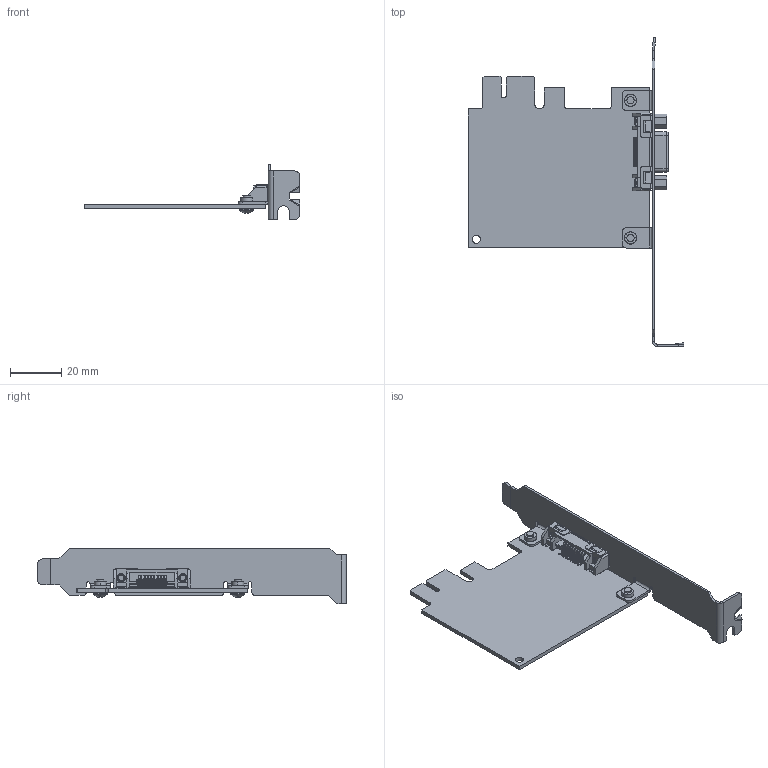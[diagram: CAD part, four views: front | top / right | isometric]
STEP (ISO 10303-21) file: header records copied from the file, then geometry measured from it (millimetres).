
FILE_DESCRIPTION((''),'2;1');
FILE_NAME('CU_CCA_PCIE-8361-FH-SW','2014-02-26T',('gvillanu'),(''),'PRO/ENGINEER BY PARAMETRIC TECHNOLOGY CORPORATION, 2011490','PRO/ENGINEER BY PARAMETRIC TECHNOLOGY CORPORATION, 2011490','');
FILE_SCHEMA(('CONFIG_CONTROL_DESIGN'));
Length unit declared in the file: inch
Products named in the file (1): CU_CCA_PCIE-8361-FH-SW
Bounding box: 84.53 x 120.94 x 21.59 mm (x, y, z)
Surface area: 15882.5 mm2 (no closed solid volume)
Topology: 0 solids, 48 shells, 1098 faces, 3981 edges, 2783 vertices
Faces by surface type: plane 663, cylinder 359, bspline 46, torus 14, cone 12, sphere 4
Entity records: 42997 total; most frequent: CARTESIAN_POINT 10921, DIRECTION 6169, ORIENTED_EDGE 6163, EDGE_CURVE 3945, VECTOR 2825, LINE 2825, VERTEX_POINT 2783, AXIS2_PLACEMENT_3D 1672
